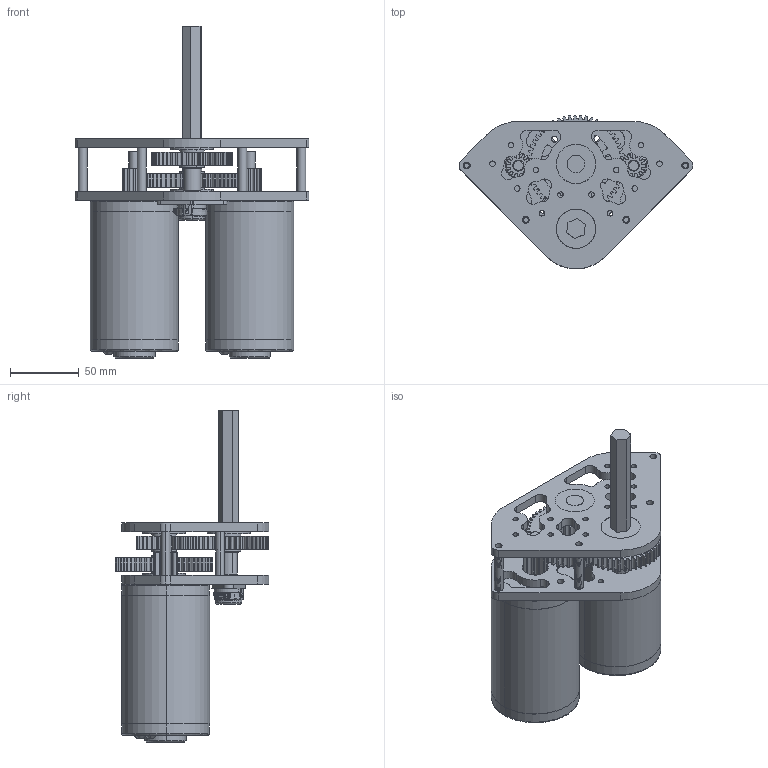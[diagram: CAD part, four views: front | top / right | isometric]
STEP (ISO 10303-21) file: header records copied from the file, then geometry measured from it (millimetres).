
FILE_DESCRIPTION (( 'STEP AP214' ), '1' );
FILE_NAME ('2CIMCornerGearbox.STEP', '2017-01-06T04:28:24', ( 'Steward' ), ( '' ), 'SwSTEP 2.0', 'SolidWorks 2016', '' );
FILE_SCHEMA (( 'AUTOMOTIVE_DESIGN' ));
Length unit declared in the file: inch
Products named in the file (16): GearboxOuterPlate; 54.hex500.VP217-3221; 0.5 Hex ID 1.125OD Bearing R6 VEX-217-2734; 12.CIM.VP217-3099; CIM 217-2000; GearboxInnerPlate; 2CIMCornerGearbox; E4P-X-250-X-S-H-T-X; 44.hex500.VP217-2710; 93330A491(1.25inFemaleThreadedRound)_93330A491; LowerShaft; 0.25ID 0.375OD flanged bearing_57155K322; UpperShaft; 30.hex500.VP217-2705; 0.5ID 1.125OD Bearing VEX-217-2731; EncoderMountPlate
Assembly tree (21 placements, depth 2):
  2CIMCornerGearbox
    GearboxInnerPlate
    CIM 217-2000  x2
    12.CIM.VP217-3099  x2
    0.5ID 1.125OD Bearing VEX-217-2731  x2
    0.5 Hex ID 1.125OD Bearing R6 VEX-217-2734
    54.hex500.VP217-3221
    30.hex500.VP217-2705
    44.hex500.VP217-2710
    GearboxOuterPlate
    EncoderMountPlate
    E4P-X-250-X-S-H-T-X
    93330A491(1.25inFemaleThreadedRound)_93330A491  x4
    UpperShaft
    LowerShaft
    0.25ID 0.375OD flanged bearing_57155K322
Bounding box: 169.74 x 111.76 x 241.03 mm (x, y, z)
Volume: 928153.9 mm3; surface area: 168682.6 mm2
Topology: 43 solids, 43 shells, 2478 faces, 6575 edges, 4294 vertices
Faces by surface type: cylinder 1113, plane 871, bspline 267, cone 125, torus 69, sphere 33
Entity records: 134062 total; most frequent: CARTESIAN_POINT 65081, ORIENTED_EDGE 11074, DIRECTION 10514, EDGE_CURVE 5537, AXIS2_PLACEMENT_3D 3841, VERTEX_POINT 3628, LINE 2832, VECTOR 2832
